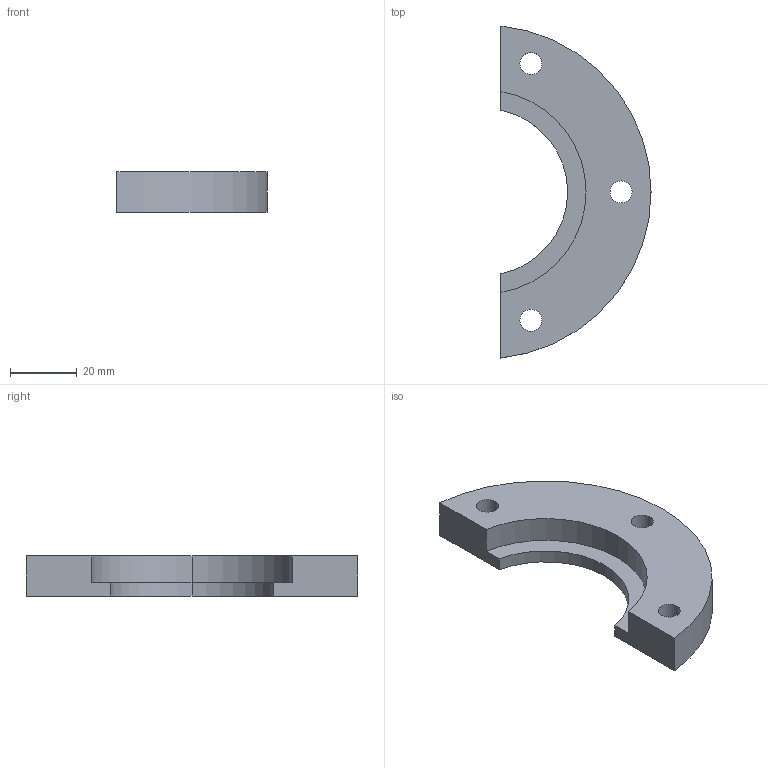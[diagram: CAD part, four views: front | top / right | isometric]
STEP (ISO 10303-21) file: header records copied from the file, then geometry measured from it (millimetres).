
FILE_DESCRIPTION (( 'STEP AP214' ), '1' );
FILE_NAME ('BR101-08-050.STEP', '2020-10-13T11:03:06', ( 'August' ), ( '' ), 'SwSTEP 2.0', 'SolidWorks 2018', '' );
FILE_SCHEMA (( 'AUTOMOTIVE_DESIGN' ));
Length unit declared in the file: millimetre
Products named in the file (1): BR101-08-050
Bounding box: 45 x 99.5 x 12 mm (x, y, z)
Volume: 26051.1 mm3; surface area: 9527.7 mm2
Topology: 1 solids, 1 shells, 26 faces, 63 edges, 42 vertices
Faces by surface type: cylinder 18, plane 8
Entity records: 829 total; most frequent: DIRECTION 153, CARTESIAN_POINT 132, ORIENTED_EDGE 126, AXIS2_PLACEMENT_3D 63, EDGE_CURVE 63, VERTEX_POINT 42, CIRCLE 36, EDGE_LOOP 35
